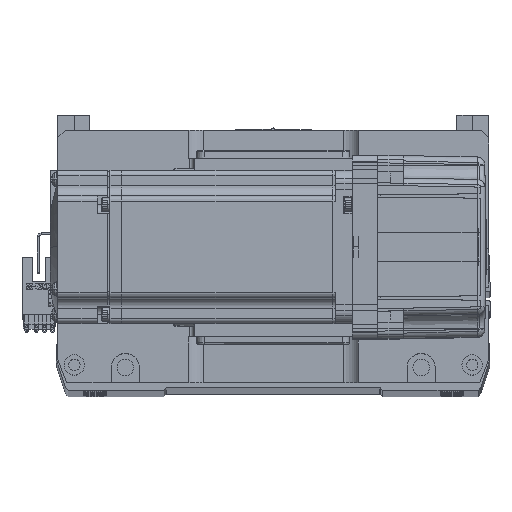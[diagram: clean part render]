
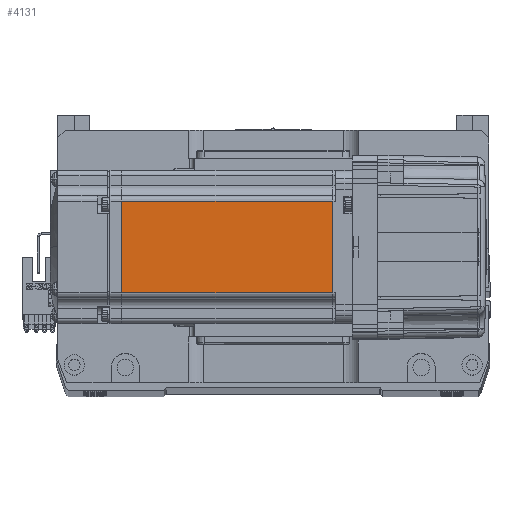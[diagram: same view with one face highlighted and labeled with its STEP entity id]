
A CAD part, top view. The second image highlights one B-rep face of the part: STEP entity #4131.
In plain terms, the highlighted planar face has unit normal (0, 0, 1).
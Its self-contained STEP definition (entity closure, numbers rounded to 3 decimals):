
#4131 = ADVANCED_FACE ( 'NONE', ( #38458 ), #42930, .T. ) ;
#4233 = LINE ( 'NONE', #41273, #31588 ) ;
#5586 = VERTEX_POINT ( 'NONE', #13999 ) ;
#5930 = VECTOR ( 'NONE', #27705, 1000. ) ;
#6894 = VERTEX_POINT ( 'NONE', #28538 ) ;
#7870 = AXIS2_PLACEMENT_3D ( 'NONE', #52942, #43577, #32941 ) ;
#8270 = EDGE_CURVE ( 'NONE', #6894, #21728, #4233, .T. ) ;
#13999 = CARTESIAN_POINT ( 'NONE',  ( -90.45, 18., 30. ) ) ;
#16155 = EDGE_LOOP ( 'NONE', ( #49952, #30599, #20262, #34693 ) ) ;
#16941 = LINE ( 'NONE', #52635, #20912 ) ;
#20262 = ORIENTED_EDGE ( 'NONE', *, *, #26568, .T. ) ;
#20912 = VECTOR ( 'NONE', #52848, 1000. ) ;
#21728 = VERTEX_POINT ( 'NONE', #50496 ) ;
#22998 = VERTEX_POINT ( 'NONE', #43327 ) ;
#24735 = EDGE_CURVE ( 'NONE', #21728, #22998, #16941, .T. ) ;
#26568 = EDGE_CURVE ( 'NONE', #5586, #22998, #37035, .T. ) ;
#27705 = DIRECTION ( 'NONE',  ( -1., 0., 0. ) ) ;
#27837 = LINE ( 'NONE', #62721, #5930 ) ;
#28538 = CARTESIAN_POINT ( 'NONE',  ( -7.75, 18., 30. ) ) ;
#30599 = ORIENTED_EDGE ( 'NONE', *, *, #54087, .T. ) ;
#31588 = VECTOR ( 'NONE', #61243, 1000. ) ;
#32941 = DIRECTION ( 'NONE',  ( 1., 0., 0. ) ) ;
#34693 = ORIENTED_EDGE ( 'NONE', *, *, #24735, .F. ) ;
#37035 = LINE ( 'NONE', #40473, #53388 ) ;
#38458 = FACE_OUTER_BOUND ( 'NONE', #16155, .T. ) ;
#40473 = CARTESIAN_POINT ( 'NONE',  ( -90.45, 0., 30. ) ) ;
#41273 = CARTESIAN_POINT ( 'NONE',  ( -7.75, 0., 30. ) ) ;
#42930 = PLANE ( 'NONE',  #7870 ) ;
#43327 = CARTESIAN_POINT ( 'NONE',  ( -90.45, -18., 30. ) ) ;
#43577 = DIRECTION ( 'NONE',  ( 0., 0., 1. ) ) ;
#49952 = ORIENTED_EDGE ( 'NONE', *, *, #8270, .F. ) ;
#50496 = CARTESIAN_POINT ( 'NONE',  ( -7.75, -18., 30. ) ) ;
#50678 = DIRECTION ( 'NONE',  ( 0., -1., 0. ) ) ;
#52635 = CARTESIAN_POINT ( 'NONE',  ( -6.5, -18., 30. ) ) ;
#52848 = DIRECTION ( 'NONE',  ( -1., 0., 0. ) ) ;
#52942 = CARTESIAN_POINT ( 'NONE',  ( -6.5, -25., 30. ) ) ;
#53388 = VECTOR ( 'NONE', #50678, 1000. ) ;
#54087 = EDGE_CURVE ( 'NONE', #6894, #5586, #27837, .T. ) ;
#61243 = DIRECTION ( 'NONE',  ( 0., -1., 0. ) ) ;
#62721 = CARTESIAN_POINT ( 'NONE',  ( -6.5, 18., 30. ) ) ;
